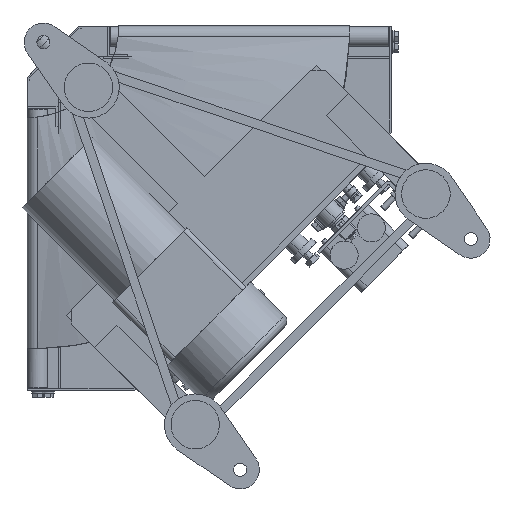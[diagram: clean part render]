
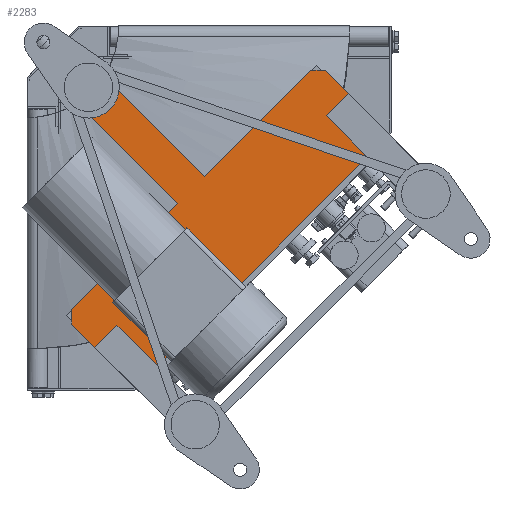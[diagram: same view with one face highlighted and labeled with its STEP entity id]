
A CAD part, front view. The second image highlights one B-rep face of the part: STEP entity #2283.
In plain terms, the highlighted planar face has unit normal (0, -1, 0).
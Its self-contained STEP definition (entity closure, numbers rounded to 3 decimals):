
#2283=ADVANCED_FACE('',(#6224),#6223,.T.);
#6223=PLANE('',#16515);
#6224=FACE_OUTER_BOUND('',#16516,.T.);
#16512=CARTESIAN_POINT('',(2.728,-167.5,-2.728));
#16513=DIRECTION('',(0.,-1.,0.));
#16514=DIRECTION('',(0.,0.,-1.));
#16515=AXIS2_PLACEMENT_3D('',#16512,#16513,#16514);
#16516=EDGE_LOOP('',(#21980,#21981,#21982,#21983,#21984,#21985,#21986,#21987,#21988,#21989));
#21980=ORIENTED_EDGE('',*,*,#25885,.F.);
#21981=ORIENTED_EDGE('',*,*,#25898,.T.);
#21982=ORIENTED_EDGE('',*,*,#25899,.T.);
#21983=ORIENTED_EDGE('',*,*,#25900,.T.);
#21984=ORIENTED_EDGE('',*,*,#25901,.T.);
#21985=ORIENTED_EDGE('',*,*,#25902,.T.);
#21986=ORIENTED_EDGE('',*,*,#25903,.T.);
#21987=ORIENTED_EDGE('',*,*,#25904,.T.);
#21988=ORIENTED_EDGE('',*,*,#25880,.F.);
#21989=ORIENTED_EDGE('',*,*,#25874,.F.);
#25874=EDGE_CURVE('',#32448,#32449,#32450,.T.);
#25880=EDGE_CURVE('',#32449,#32490,#32491,.T.);
#25885=EDGE_CURVE('',#32524,#32448,#32525,.T.);
#25898=EDGE_CURVE('',#32524,#32612,#32613,.T.);
#25899=EDGE_CURVE('',#32612,#32619,#32620,.T.);
#25900=EDGE_CURVE('',#32619,#32626,#32627,.T.);
#25901=EDGE_CURVE('',#32626,#32633,#32634,.T.);
#25902=EDGE_CURVE('',#32633,#32640,#32641,.T.);
#25903=EDGE_CURVE('',#32640,#32647,#32648,.T.);
#25904=EDGE_CURVE('',#32647,#32490,#32654,.T.);
#32448=VERTEX_POINT('',#46895);
#32449=VERTEX_POINT('',#46896);
#32450=LINE('',#46897,#46898);
#32490=VERTEX_POINT('',#46921);
#32491=LINE('',#46922,#46923);
#32524=VERTEX_POINT('',#46940);
#32525=LINE('',#46941,#46942);
#32612=VERTEX_POINT('',#46989);
#32613=LINE('',#46990,#46991);
#32619=VERTEX_POINT('',#46993);
#32620=LINE('',#46994,#46995);
#32626=VERTEX_POINT('',#46997);
#32627=LINE('',#46998,#46999);
#32633=VERTEX_POINT('',#47001);
#32634=LINE('',#47002,#47003);
#32640=VERTEX_POINT('',#47005);
#32641=LINE('',#47006,#47007);
#32647=VERTEX_POINT('',#47009);
#32648=LINE('',#47010,#47011);
#32654=LINE('',#47013,#47014);
#46895=CARTESIAN_POINT('',(12.728,-167.5,-39.598));
#46896=CARTESIAN_POINT('',(39.598,-167.5,-12.728));
#46897=CARTESIAN_POINT('',(12.728,-167.5,-39.598));
#46898=VECTOR('',#46899,38.);
#46899=DIRECTION('',(0.707,0.,0.707));
#46921=CARTESIAN_POINT('',(175.362,-167.5,-148.492));
#46922=CARTESIAN_POINT('',(39.598,-167.5,-12.728));
#46923=VECTOR('',#46924,192.);
#46924=DIRECTION('',(0.707,0.,-0.707));
#46940=CARTESIAN_POINT('',(148.492,-167.5,-175.362));
#46941=CARTESIAN_POINT('',(148.492,-167.5,-175.362));
#46942=VECTOR('',#46943,192.);
#46943=DIRECTION('',(-0.707,0.,0.707));
#46989=CARTESIAN_POINT('',(43.487,-167.5,-280.368));
#46990=CARTESIAN_POINT('',(148.492,-167.5,-175.362));
#46991=VECTOR('',#46992,148.5);
#46992=DIRECTION('',(-0.707,0.,-0.707));
#46993=CARTESIAN_POINT('',(43.487,-167.5,-294.51));
#46994=CARTESIAN_POINT('',(43.487,-167.5,-280.368));
#46995=VECTOR('',#46996,14.142);
#46996=DIRECTION('',(0.,0.,-1.));
#46997=CARTESIAN_POINT('',(107.127,-167.5,-358.15));
#46998=CARTESIAN_POINT('',(43.487,-167.5,-294.51));
#46999=VECTOR('',#47000,90.);
#47000=DIRECTION('',(0.707,0.,-0.707));
#47001=CARTESIAN_POINT('',(358.15,-167.5,-107.127));
#47002=CARTESIAN_POINT('',(107.127,-167.5,-358.15));
#47003=VECTOR('',#47004,355.);
#47004=DIRECTION('',(0.707,0.,0.707));
#47005=CARTESIAN_POINT('',(294.51,-167.5,-43.487));
#47006=CARTESIAN_POINT('',(358.15,-167.5,-107.127));
#47007=VECTOR('',#47008,90.);
#47008=DIRECTION('',(-0.707,0.,0.707));
#47009=CARTESIAN_POINT('',(280.368,-167.5,-43.487));
#47010=CARTESIAN_POINT('',(294.51,-167.5,-43.487));
#47011=VECTOR('',#47012,14.142);
#47012=DIRECTION('',(-1.,0.,0.));
#47013=CARTESIAN_POINT('',(280.368,-167.5,-43.487));
#47014=VECTOR('',#47015,148.5);
#47015=DIRECTION('',(-0.707,0.,-0.707));
